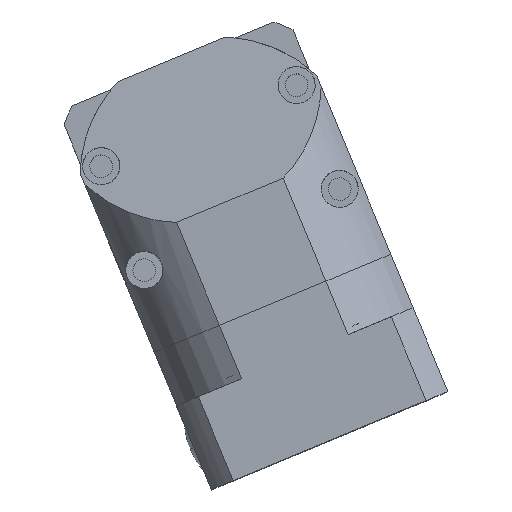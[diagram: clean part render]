
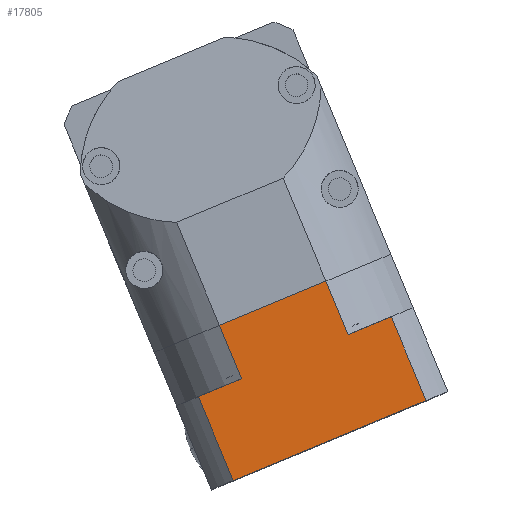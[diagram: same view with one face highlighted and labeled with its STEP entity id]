
A CAD part, top view. The second image highlights one B-rep face of the part: STEP entity #17805.
In plain terms, the highlighted planar face has unit normal (0, 0, 1).
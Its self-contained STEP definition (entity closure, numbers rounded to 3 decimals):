
#14 = CARTESIAN_POINT ( 'NONE',  ( -33.271, -47.475, 125.869 ) ) ;
#160 = CARTESIAN_POINT ( 'NONE',  ( 13.43, -28.109, 125.869 ) ) ;
#590 = CARTESIAN_POINT ( 'NONE',  ( -24.844, -67.797, 125.869 ) ) ;
#810 = VECTOR ( 'NONE', #2614, 1000. ) ;
#879 = DIRECTION ( 'NONE',  ( 0., 0., -1. ) ) ;
#2238 = PLANE ( 'NONE',  #4266 ) ;
#2258 = EDGE_CURVE ( 'NONE', #14491, #3292, #3459, .T. ) ;
#2614 = DIRECTION ( 'NONE',  ( -0.383, 0.924, 0. ) ) ;
#2619 = CARTESIAN_POINT ( 'NONE',  ( -2.384, -19.51, 125.869 ) ) ;
#3131 = EDGE_CURVE ( 'NONE', #14491, #9164, #18157, .T. ) ;
#3292 = VERTEX_POINT ( 'NONE', #3654 ) ;
#3459 = LINE ( 'NONE', #9652, #13035 ) ;
#3478 = LINE ( 'NONE', #9476, #11820 ) ;
#3654 = CARTESIAN_POINT ( 'NONE',  ( -28.183, -30.208, 125.869 ) ) ;
#4095 = CARTESIAN_POINT ( 'NONE',  ( 21.857, -48.431, 125.869 ) ) ;
#4131 = CARTESIAN_POINT ( 'NONE',  ( 2.978, -32.443, 125.869 ) ) ;
#4150 = LINE ( 'NONE', #160, #9828 ) ;
#4224 = VECTOR ( 'NONE', #11463, 1000. ) ;
#4266 = AXIS2_PLACEMENT_3D ( 'NONE', #4131, #879, #14580 ) ;
#5392 = CARTESIAN_POINT ( 'NONE',  ( -22.82, -43.141, 125.869 ) ) ;
#5585 = LINE ( 'NONE', #4095, #810 ) ;
#6190 = DIRECTION ( 'NONE',  ( -0.924, -0.383, 0. ) ) ;
#6193 = CARTESIAN_POINT ( 'NONE',  ( -2.384, -19.51, 125.869 ) ) ;
#6232 = DIRECTION ( 'NONE',  ( -0.383, 0.924, 0. ) ) ;
#6523 = DIRECTION ( 'NONE',  ( -0.383, 0.924, 0. ) ) ;
#6673 = VERTEX_POINT ( 'NONE', #7245 ) ;
#6955 = LINE ( 'NONE', #2619, #4224 ) ;
#7245 = CARTESIAN_POINT ( 'NONE',  ( 2.978, -32.443, 125.869 ) ) ;
#8983 = VECTOR ( 'NONE', #15524, 1000. ) ;
#9159 = ORIENTED_EDGE ( 'NONE', *, *, #9922, .T. ) ;
#9164 = VERTEX_POINT ( 'NONE', #14 ) ;
#9261 = EDGE_CURVE ( 'NONE', #6673, #13241, #12216, .T. ) ;
#9388 = VECTOR ( 'NONE', #12126, 1000. ) ;
#9476 = CARTESIAN_POINT ( 'NONE',  ( -24.844, -67.797, 125.869 ) ) ;
#9652 = CARTESIAN_POINT ( 'NONE',  ( -22.82, -43.141, 125.869 ) ) ;
#9828 = VECTOR ( 'NONE', #6190, 1000. ) ;
#9845 = ORIENTED_EDGE ( 'NONE', *, *, #11039, .F. ) ;
#9922 = EDGE_CURVE ( 'NONE', #13241, #3292, #6955, .T. ) ;
#10627 = ORIENTED_EDGE ( 'NONE', *, *, #18470, .T. ) ;
#10972 = CARTESIAN_POINT ( 'NONE',  ( 21.857, -48.431, 125.869 ) ) ;
#11039 = EDGE_CURVE ( 'NONE', #11526, #9164, #3478, .T. ) ;
#11463 = DIRECTION ( 'NONE',  ( -0.924, -0.383, 0. ) ) ;
#11526 = VERTEX_POINT ( 'NONE', #590 ) ;
#11820 = VECTOR ( 'NONE', #15406, 1000. ) ;
#12120 = CARTESIAN_POINT ( 'NONE',  ( 2.978, -32.443, 125.869 ) ) ;
#12126 = DIRECTION ( 'NONE',  ( -0.924, -0.383, 0. ) ) ;
#12216 = LINE ( 'NONE', #12120, #14627 ) ;
#12518 = ORIENTED_EDGE ( 'NONE', *, *, #15119, .T. ) ;
#13035 = VECTOR ( 'NONE', #6523, 1000. ) ;
#13241 = VERTEX_POINT ( 'NONE', #6193 ) ;
#13514 = CARTESIAN_POINT ( 'NONE',  ( 21.857, -48.431, 125.869 ) ) ;
#13620 = CARTESIAN_POINT ( 'NONE',  ( 13.43, -28.109, 125.869 ) ) ;
#14410 = ORIENTED_EDGE ( 'NONE', *, *, #16697, .F. ) ;
#14491 = VERTEX_POINT ( 'NONE', #5392 ) ;
#14580 = DIRECTION ( 'NONE',  ( 0.383, -0.924, 0. ) ) ;
#14627 = VECTOR ( 'NONE', #6232, 1000. ) ;
#14787 = VERTEX_POINT ( 'NONE', #18759 ) ;
#14950 = ORIENTED_EDGE ( 'NONE', *, *, #2258, .F. ) ;
#15119 = EDGE_CURVE ( 'NONE', #14787, #6673, #4150, .T. ) ;
#15406 = DIRECTION ( 'NONE',  ( -0.383, 0.924, 0. ) ) ;
#15524 = DIRECTION ( 'NONE',  ( -0.924, -0.383, 0. ) ) ;
#16155 = FACE_OUTER_BOUND ( 'NONE', #18828, .T. ) ;
#16697 = EDGE_CURVE ( 'NONE', #18879, #11526, #16901, .T. ) ;
#16824 = ORIENTED_EDGE ( 'NONE', *, *, #3131, .T. ) ;
#16901 = LINE ( 'NONE', #10972, #8983 ) ;
#17805 = ADVANCED_FACE ( 'NONE', ( #16155 ), #2238, .F. ) ;
#18157 = LINE ( 'NONE', #13620, #9388 ) ;
#18470 = EDGE_CURVE ( 'NONE', #18879, #14787, #5585, .T. ) ;
#18759 = CARTESIAN_POINT ( 'NONE',  ( 13.43, -28.109, 125.869 ) ) ;
#18828 = EDGE_LOOP ( 'NONE', ( #9159, #14950, #16824, #9845, #14410, #10627, #12518, #18849 ) ) ;
#18849 = ORIENTED_EDGE ( 'NONE', *, *, #9261, .T. ) ;
#18879 = VERTEX_POINT ( 'NONE', #13514 ) ;
